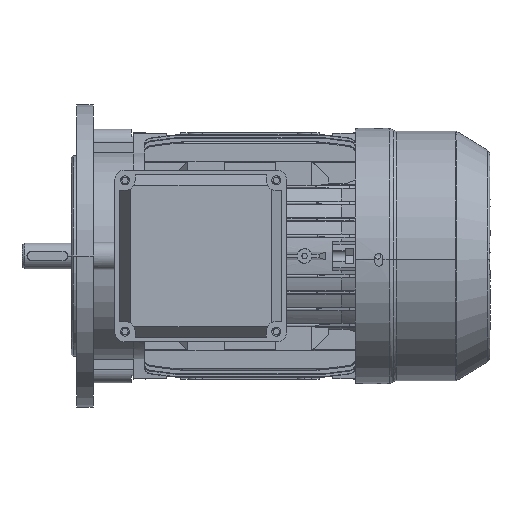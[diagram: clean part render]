
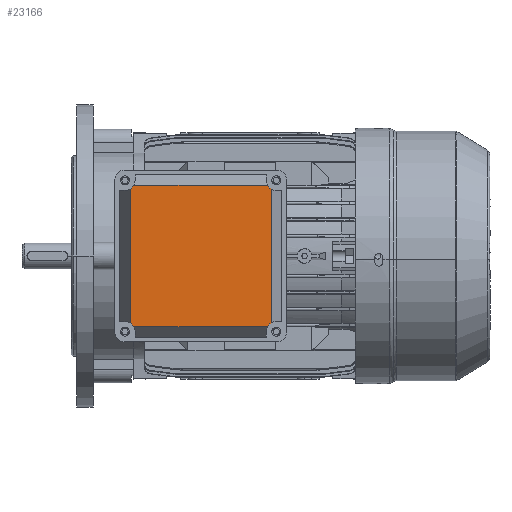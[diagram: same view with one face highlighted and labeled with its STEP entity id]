
A CAD part, left-side view. The second image highlights one B-rep face of the part: STEP entity #23166.
In plain terms, the highlighted planar face has unit normal (-1, 0, 0) as drawn and (0, -1, 0) by its records, which use the part's own axes.
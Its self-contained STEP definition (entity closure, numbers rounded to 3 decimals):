
#4137 = CARTESIAN_POINT ( 'NONE',  ( -42., -7.5, 38.726 ) ) ;
#4139 = DIRECTION ( 'NONE',  ( -1., 0., 0. ) ) ;
#4147 = CARTESIAN_POINT ( 'NONE',  ( -38.726, -7.5, -42. ) ) ;
#4148 = DIRECTION ( 'NONE',  ( 0., 0., -1. ) ) ;
#4153 = CARTESIAN_POINT ( 'NONE',  ( -41.5, -7.5, 41.5 ) ) ;
#4154 = DIRECTION ( 'NONE',  ( 0., 1., 0. ) ) ;
#4155 = DIRECTION ( 'NONE',  ( 0., 0., 1. ) ) ;
#4157 = CARTESIAN_POINT ( 'NONE',  ( -42., -7.5, -38.726 ) ) ;
#4161 = DIRECTION ( 'NONE',  ( 1., 0., 0. ) ) ;
#4166 = CARTESIAN_POINT ( 'NONE',  ( -41.5, -7.5, -41.5 ) ) ;
#4167 = DIRECTION ( 'NONE',  ( 0., 1., 0. ) ) ;
#4168 = DIRECTION ( 'NONE',  ( 0., 0., 1. ) ) ;
#4170 = CARTESIAN_POINT ( 'NONE',  ( 38.726, -7.5, -42. ) ) ;
#4174 = DIRECTION ( 'NONE',  ( 0., 0., 1. ) ) ;
#4179 = CARTESIAN_POINT ( 'NONE',  ( 41.5, -7.5, -41.5 ) ) ;
#4180 = DIRECTION ( 'NONE',  ( 0., 1., 0. ) ) ;
#4181 = DIRECTION ( 'NONE',  ( 0., 0., 1. ) ) ;
#4184 = CARTESIAN_POINT ( 'NONE',  ( 41.5, -7.5, 41.5 ) ) ;
#4185 = DIRECTION ( 'NONE',  ( 0., 1., 0. ) ) ;
#4186 = DIRECTION ( 'NONE',  ( 0., 0., 1. ) ) ;
#4744 = LINE ( 'NONE', #4137, #4746 ) ;
#4746 = VECTOR ( 'NONE', #4139, 1000. ) ;
#4747 = CIRCLE ( 'NONE', #66031, 5.5 ) ;
#4748 = LINE ( 'NONE', #4147, #4749 ) ;
#4749 = VECTOR ( 'NONE', #4148, 1000. ) ;
#4750 = CIRCLE ( 'NONE', #66038, 5.5 ) ;
#4751 = LINE ( 'NONE', #4157, #4752 ) ;
#4752 = VECTOR ( 'NONE', #4161, 1000. ) ;
#4753 = CIRCLE ( 'NONE', #66043, 5.5 ) ;
#4754 = CIRCLE ( 'NONE', #66049, 5.5 ) ;
#4755 = LINE ( 'NONE', #4170, #4756 ) ;
#4756 = VECTOR ( 'NONE', #4174, 1000. ) ;
#13277 = VERTEX_POINT ( 'NONE', #41278 ) ;
#15409 = VERTEX_POINT ( 'NONE', #41497 ) ;
#15431 = VERTEX_POINT ( 'NONE', #41508 ) ;
#15435 = VERTEX_POINT ( 'NONE', #41510 ) ;
#15591 = VERTEX_POINT ( 'NONE', #41588 ) ;
#15723 = VERTEX_POINT ( 'NONE', #41654 ) ;
#15989 = VERTEX_POINT ( 'NONE', #41787 ) ;
#16327 = VERTEX_POINT ( 'NONE', #41985 ) ;
#18382 = ORIENTED_EDGE ( 'NONE', *, *, #37123, .T. ) ;
#18383 = ORIENTED_EDGE ( 'NONE', *, *, #37125, .T. ) ;
#18384 = ORIENTED_EDGE ( 'NONE', *, *, #37110, .T. ) ;
#18385 = ORIENTED_EDGE ( 'NONE', *, *, #37114, .T. ) ;
#18386 = ORIENTED_EDGE ( 'NONE', *, *, #37115, .T. ) ;
#18387 = ORIENTED_EDGE ( 'NONE', *, *, #37118, .T. ) ;
#18388 = ORIENTED_EDGE ( 'NONE', *, *, #37119, .T. ) ;
#18389 = ORIENTED_EDGE ( 'NONE', *, *, #37122, .T. ) ;
#18644 = EDGE_LOOP ( 'NONE', ( #18382, #18383, #18384, #18385, #18386, #18387, #18388, #18389 ) ) ;
#23166 = ADVANCED_FACE ( 'NONE', ( #61318 ), #62813, .T. ) ;
#37110 = EDGE_CURVE ( 'NONE', #15409, #15431, #4744, .T. ) ;
#37114 = EDGE_CURVE ( 'NONE', #15431, #16327, #4747, .T. ) ;
#37115 = EDGE_CURVE ( 'NONE', #16327, #13277, #4748, .T. ) ;
#37118 = EDGE_CURVE ( 'NONE', #13277, #15435, #4750, .T. ) ;
#37119 = EDGE_CURVE ( 'NONE', #15435, #15591, #4751, .T. ) ;
#37122 = EDGE_CURVE ( 'NONE', #15591, #15723, #4753, .T. ) ;
#37123 = EDGE_CURVE ( 'NONE', #15723, #15989, #4755, .T. ) ;
#37125 = EDGE_CURVE ( 'NONE', #15989, #15409, #4754, .T. ) ;
#41278 = CARTESIAN_POINT ( 'NONE',  ( -38.726, -7.5, -36.751 ) ) ;
#41497 = CARTESIAN_POINT ( 'NONE',  ( 36.751, -7.5, 38.726 ) ) ;
#41508 = CARTESIAN_POINT ( 'NONE',  ( -36.751, -7.5, 38.726 ) ) ;
#41510 = CARTESIAN_POINT ( 'NONE',  ( -36.751, -7.5, -38.726 ) ) ;
#41588 = CARTESIAN_POINT ( 'NONE',  ( 36.751, -7.5, -38.726 ) ) ;
#41654 = CARTESIAN_POINT ( 'NONE',  ( 38.726, -7.5, -36.751 ) ) ;
#41787 = CARTESIAN_POINT ( 'NONE',  ( 38.726, -7.5, 36.751 ) ) ;
#41985 = CARTESIAN_POINT ( 'NONE',  ( -38.726, -7.5, 36.751 ) ) ;
#60580 = AXIS2_PLACEMENT_3D ( 'NONE', #62811, #62815, #62816 ) ;
#61318 = FACE_OUTER_BOUND ( 'NONE', #18644, .T. ) ;
#62811 = CARTESIAN_POINT ( 'NONE',  ( -42., -7.5, -42. ) ) ;
#62813 = PLANE ( 'NONE',  #60580 ) ;
#62815 = DIRECTION ( 'NONE',  ( 0., -1., 0. ) ) ;
#62816 = DIRECTION ( 'NONE',  ( 0., 0., -1. ) ) ;
#66031 = AXIS2_PLACEMENT_3D ( 'NONE', #4153, #4154, #4155 ) ;
#66038 = AXIS2_PLACEMENT_3D ( 'NONE', #4166, #4167, #4168 ) ;
#66043 = AXIS2_PLACEMENT_3D ( 'NONE', #4179, #4180, #4181 ) ;
#66049 = AXIS2_PLACEMENT_3D ( 'NONE', #4184, #4185, #4186 ) ;
